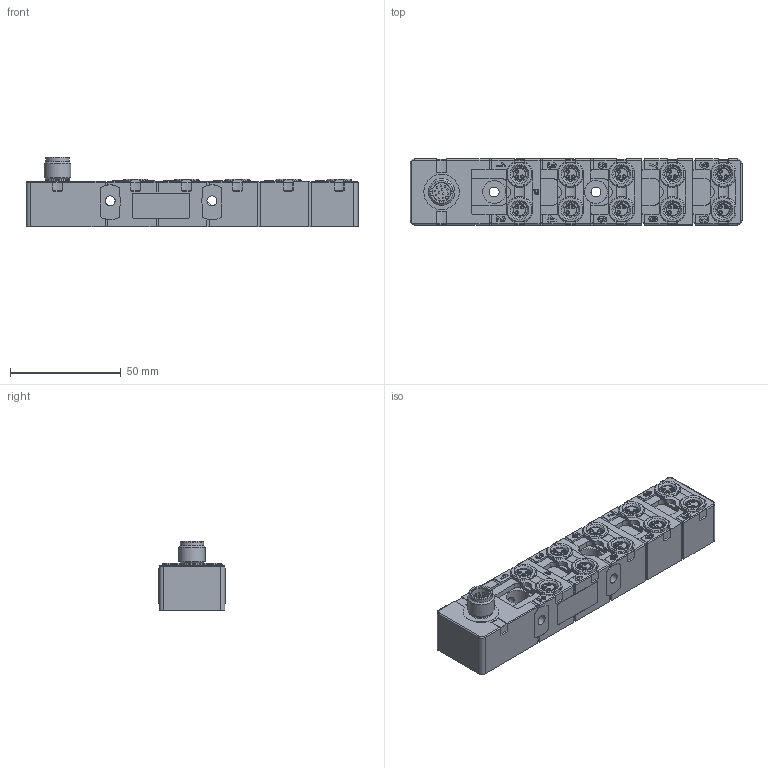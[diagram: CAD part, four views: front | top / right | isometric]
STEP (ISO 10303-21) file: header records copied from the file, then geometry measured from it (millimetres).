
FILE_DESCRIPTION(/* description */ (''),/* implementation_level */ '2;1');
FILE_NAME(/* name */ '3DCAD_MD_7XXP_11_108IO3_12.stp',/* time_stamp */ '2016-11-04T11:26:26+01:00',/* author */ ('CC2'),/* organization */ ('Leuze electronic'),/* preprocessor_version */ 'ST-DEVELOPER v15',/* originating_system */ 'SIEMENS PLM Software NX 8.5',/* authorisation */ '');
FILE_SCHEMA (('AUTOMOTIVE_DESIGN { 1 0 10303 214 3 1 1 1 }'));
Length unit declared in the file: millimetre
Products named in the file (1): 19-102507_00.0
Bounding box: 150 x 30 x 31.5 mm (x, y, z)
Volume: 86988 mm3; surface area: 20149.1 mm2
Topology: 1 solids, 2 shells, 1070 faces, 2793 edges, 1783 vertices
Faces by surface type: plane 392, cylinder 376, bspline 134, cone 118, torus 38, sphere 12
Full cylindrical faces by diameter (mm): 0.6 x12, 1.05 x30, 4.5 x6, 7 x10, 8.3 x1, 9.6 x1, 10.5 x4, 11.4 x2, 12 x1, 16 x1
Entity records: 33487 total; most frequent: CARTESIAN_POINT 8528, ORIENTED_EDGE 5196, DIRECTION 4967, EDGE_CURVE 2598, AXIS2_PLACEMENT_3D 1877, VERTEX_POINT 1746, EDGE_LOOP 1298, LINE 1213
